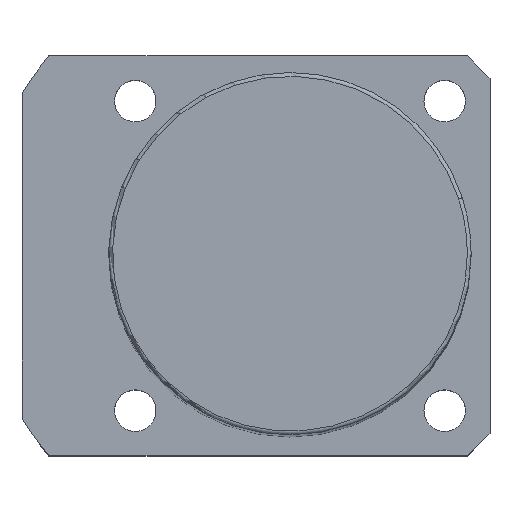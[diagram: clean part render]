
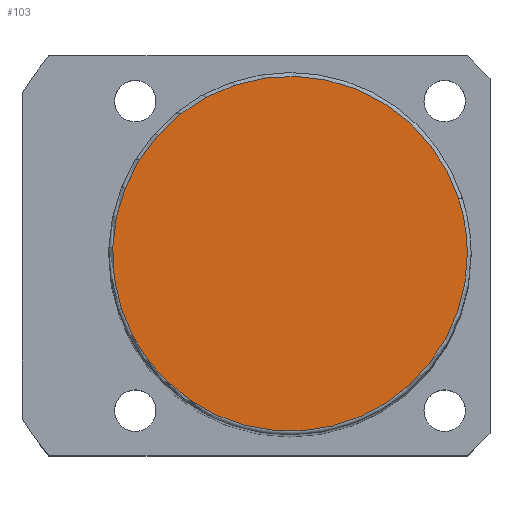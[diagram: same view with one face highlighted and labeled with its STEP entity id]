
A CAD part, top view. The second image highlights one B-rep face of the part: STEP entity #103.
In plain terms, the highlighted planar face has unit normal (0, 0, 1).
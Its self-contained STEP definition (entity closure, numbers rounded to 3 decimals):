
#16=CARTESIAN_POINT('',(-22.35,-7.262,174.0));
#17=VERTEX_POINT('',#16);
#54=CARTESIAN_POINT('',(22.35,7.262,174.0));
#55=VERTEX_POINT('',#54);
#63=CARTESIAN_POINT('',(23.5,0.0,174.0));
#64=VERTEX_POINT('',#63);
#65=CARTESIAN_POINT('',(0.0,0.0,174.0));
#66=DIRECTION('',(0.0,0.0,1.0));
#67=DIRECTION('',(1.0,0.0,0.0));
#68=AXIS2_PLACEMENT_3D('',#65,#66,#67);
#69=CIRCLE('',#68,23.5);
#70=EDGE_CURVE('no 898',#64,#55,#69,.T.);
#72=CARTESIAN_POINT('',(0.0,0.0,174.0));
#73=DIRECTION('',(0.0,0.0,1.0));
#74=DIRECTION('',(1.0,0.0,0.0));
#75=AXIS2_PLACEMENT_3D('',#72,#73,#74);
#76=CIRCLE('',#75,23.5);
#77=EDGE_CURVE('no 902',#17,#64,#76,.T.);
#87=ORIENTED_EDGE('',*,*,#70,.T.);
#88=CARTESIAN_POINT('',(0.0,0.0,174.0));
#89=DIRECTION('',(0.0,0.0,1.0));
#90=DIRECTION('',(1.0,0.0,0.0));
#91=AXIS2_PLACEMENT_3D('',#88,#89,#90);
#92=CIRCLE('',#91,23.5);
#93=EDGE_CURVE('no 911',#55,#17,#92,.T.);
#94=ORIENTED_EDGE('',*,*,#93,.T.);
#95=ORIENTED_EDGE('',*,*,#77,.T.);
#96=EDGE_LOOP('',(#87,#94,#95));
#97=FACE_OUTER_BOUND('',#96,.T.);
#98=CARTESIAN_POINT('',(0.0,0.0,174.0));
#99=DIRECTION('',(0.0,0.0,1.0));
#100=DIRECTION('',(1.0,0.0,0.0));
#101=AXIS2_PLACEMENT_3D('',#98,#99,#100);
#102=PLANE('',#101);
#103=ADVANCED_FACE('no 904',(#97),#102,.T.);
